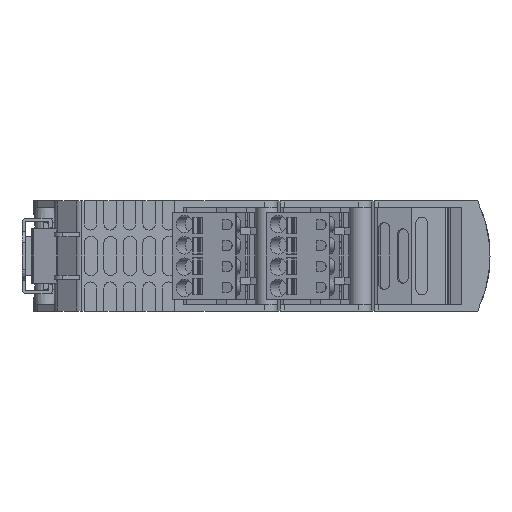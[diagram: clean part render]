
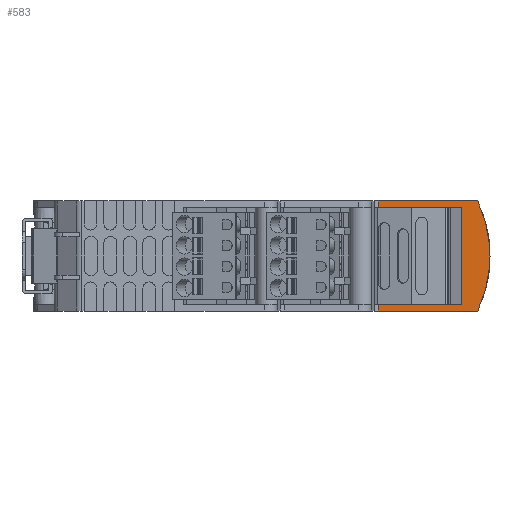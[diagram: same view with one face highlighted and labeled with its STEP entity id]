
A CAD part, front view. The second image highlights one B-rep face of the part: STEP entity #583.
In plain terms, the highlighted planar face has unit normal (0, -1, 0).
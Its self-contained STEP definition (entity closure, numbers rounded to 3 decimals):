
#583 = ADVANCED_FACE( '', ( #2158 ), #2159, .F. );
#2158 = FACE_OUTER_BOUND( '', #4260, .T. );
#2159 = PLANE( '', #4261 );
#4260 = EDGE_LOOP( '', ( #9875, #9876, #9877, #9878, #9879, #9880, #9881, #9882 ) );
#4261 = AXIS2_PLACEMENT_3D( '', #9883, #9884, #9885 );
#9875 = ORIENTED_EDGE( '', *, *, #15816, .T. );
#9876 = ORIENTED_EDGE( '', *, *, #15821, .T. );
#9877 = ORIENTED_EDGE( '', *, *, #14869, .T. );
#9878 = ORIENTED_EDGE( '', *, *, #15822, .F. );
#9879 = ORIENTED_EDGE( '', *, *, #15819, .T. );
#9880 = ORIENTED_EDGE( '', *, *, #15823, .T. );
#9881 = ORIENTED_EDGE( '', *, *, #14987, .T. );
#9882 = ORIENTED_EDGE( '', *, *, #15824, .F. );
#9883 = CARTESIAN_POINT( '', ( 74.767, -35.5, 12.7 ) );
#9884 = DIRECTION( '', ( 0., 1., 0. ) );
#9885 = DIRECTION( '', ( 0., 0., 1. ) );
#14869 = EDGE_CURVE( '', #18459, #18457, #18460, .T. );
#14987 = EDGE_CURVE( '', #18659, #18663, #18665, .F. );
#15816 = EDGE_CURVE( '', #20080, #20078, #20081, .T. );
#15819 = EDGE_CURVE( '', #20085, #20083, #20086, .T. );
#15821 = EDGE_CURVE( '', #20078, #18459, #20088, .T. );
#15822 = EDGE_CURVE( '', #20085, #18457, #20089, .T. );
#15823 = EDGE_CURVE( '', #20083, #18659, #20090, .T. );
#15824 = EDGE_CURVE( '', #20080, #18663, #20091, .T. );
#18457 = VERTEX_POINT( '', #24236 );
#18459 = VERTEX_POINT( '', #24239 );
#18460 = LINE( '', #24240, #24241 );
#18659 = VERTEX_POINT( '', #24677 );
#18663 = VERTEX_POINT( '', #24682 );
#18665 = CIRCLE( '', #24685, 30. );
#20078 = VERTEX_POINT( '', #26836 );
#20080 = VERTEX_POINT( '', #26838 );
#20081 = LINE( '', #26839, #26840 );
#20083 = VERTEX_POINT( '', #26842 );
#20085 = VERTEX_POINT( '', #26844 );
#20086 = LINE( '', #26845, #26846 );
#20088 = LINE( '', #26848, #26849 );
#20089 = LINE( '', #26850, #26851 );
#20090 = LINE( '', #26852, #26853 );
#20091 = LINE( '', #26854, #26855 );
#24236 = CARTESIAN_POINT( '', ( 94.05, -35.5, -11.2 ) );
#24239 = CARTESIAN_POINT( '', ( 94.05, -35.5, 11.2 ) );
#24240 = CARTESIAN_POINT( '', ( 94.05, -35.5, 11.2 ) );
#24241 = VECTOR( '', #30005, 1000. );
#24677 = CARTESIAN_POINT( '', ( 97.709, -35.5, -12.7 ) );
#24682 = CARTESIAN_POINT( '', ( 97.709, -35.5, 12.7 ) );
#24685 = AXIS2_PLACEMENT_3D( '', #30172, #30173, #30174 );
#26836 = CARTESIAN_POINT( '', ( 74.767, -35.5, 11.2 ) );
#26838 = CARTESIAN_POINT( '', ( 74.767, -35.5, 12.7 ) );
#26839 = CARTESIAN_POINT( '', ( 74.767, -35.5, 12.7 ) );
#26840 = VECTOR( '', #31280, 1000. );
#26842 = CARTESIAN_POINT( '', ( 74.767, -35.5, -12.7 ) );
#26844 = CARTESIAN_POINT( '', ( 74.767, -35.5, -11.2 ) );
#26845 = CARTESIAN_POINT( '', ( 74.767, -35.5, 12.7 ) );
#26846 = VECTOR( '', #31287, 1000. );
#26848 = CARTESIAN_POINT( '', ( 74.767, -35.5, 11.2 ) );
#26849 = VECTOR( '', #31291, 1000. );
#26850 = CARTESIAN_POINT( '', ( 74.767, -35.5, -11.2 ) );
#26851 = VECTOR( '', #31292, 1000. );
#26852 = CARTESIAN_POINT( '', ( 74.767, -35.5, -12.7 ) );
#26853 = VECTOR( '', #31293, 1000. );
#26854 = CARTESIAN_POINT( '', ( 74.767, -35.5, 12.7 ) );
#26855 = VECTOR( '', #31294, 1000. );
#30005 = DIRECTION( '', ( 0., 0., -1. ) );
#30172 = CARTESIAN_POINT( '', ( 70.53, -35.5, 0. ) );
#30173 = DIRECTION( '', ( 0., 1., 0. ) );
#30174 = DIRECTION( '', ( 0., 0., 1. ) );
#31280 = DIRECTION( '', ( 0., 0., -1. ) );
#31287 = DIRECTION( '', ( 0., 0., -1. ) );
#31291 = DIRECTION( '', ( 1., 0., 0. ) );
#31292 = DIRECTION( '', ( 1., 0., 0. ) );
#31293 = DIRECTION( '', ( 1., 0., 0. ) );
#31294 = DIRECTION( '', ( 1., 0., 0. ) );
